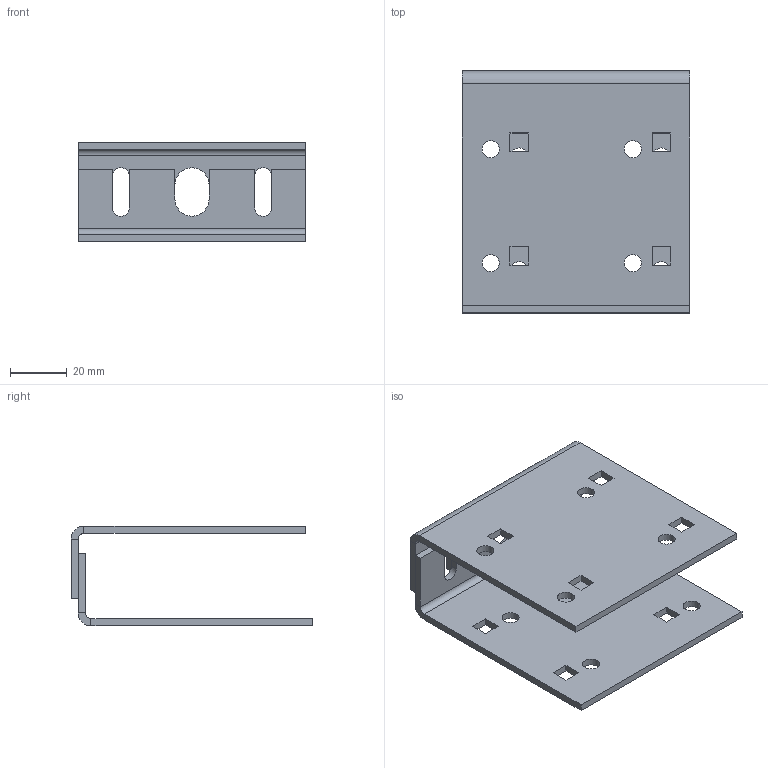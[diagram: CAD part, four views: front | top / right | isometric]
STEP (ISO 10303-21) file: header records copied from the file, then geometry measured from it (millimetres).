
FILE_DESCRIPTION(/* description */ ('Biegeteil mit Löchern'),/* implementation_level */ '2;1');
FILE_NAME(/* name */ 'Q:\sge-ma\Produktmanagement-STB\STB\Workspace\stp\010336540.stp',/* time_stamp */ '2016-07-18T13:59:08+02:00',/* author */ ('avschreier'),/* organization */ (''),/* preprocessor_version */ 'ST-DEVELOPER v16.1',/* originating_system */ 'Autodesk Inventor 2016',/* authorisation */ '');
FILE_SCHEMA (('AUTOMOTIVE_DESIGN { 1 0 10303 214 3 1 1 }'));
Length unit declared in the file: millimetre
Products named in the file (2): 337000264; 010336540
Assembly tree (2 placements, depth 2):
  010336540
    337000264  x2
Bounding box: 80 x 85 x 35 mm (x, y, z)
Volume: 38395.2 mm3; surface area: 33889.7 mm2
Topology: 2 solids, 2 shells, 92 faces, 248 edges, 160 vertices
Faces by surface type: plane 74, cylinder 18
Full cylindrical faces by diameter (mm): 6 x8
Entity records: 1486 total; most frequent: CARTESIAN_POINT 250, ORIENTED_EDGE 240, DIRECTION 238, EDGE_CURVE 120, LINE 102, VECTOR 102, VERTEX_POINT 80, AXIS2_PLACEMENT_3D 68
